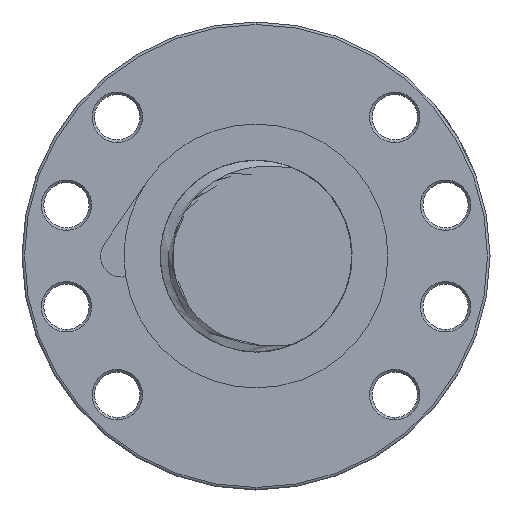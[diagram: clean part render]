
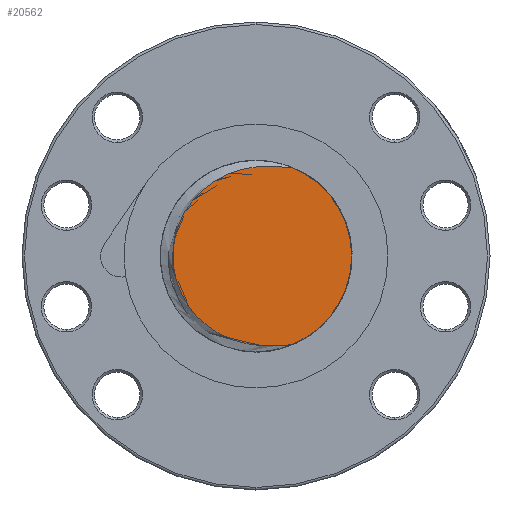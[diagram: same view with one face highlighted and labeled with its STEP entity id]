
A CAD part, left-side view. The second image highlights one B-rep face of the part: STEP entity #20562.
In plain terms, the highlighted planar face has unit normal (-1, 0, 0).
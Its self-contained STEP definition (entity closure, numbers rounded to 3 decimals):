
#16024 = DIRECTION ( 'NONE',  ( 0., 1., 0. ) ) ;
#16025 = DIRECTION ( 'NONE',  ( 1., 0., 0. ) ) ;
#16026 = CARTESIAN_POINT ( 'NONE',  ( -130., 0., 0. ) ) ;
#16027 = AXIS2_PLACEMENT_3D ( 'NONE', #16026, #16025, #16024 ) ;
#16028 = CIRCLE ( 'NONE', #16027, 19. ) ;
#16127 = CARTESIAN_POINT ( 'NONE',  ( -130., -7.08, 17.632 ) ) ;
#16504 = CARTESIAN_POINT ( 'NONE',  ( -130., -7.078, -17.633 ) ) ;
#19477 = FACE_OUTER_BOUND ( 'NONE', #20563, .T. ) ;
#19586 = DIRECTION ( 'NONE',  ( 0., 0., -1. ) ) ;
#19587 = DIRECTION ( 'NONE',  ( 1., 0., 0. ) ) ;
#19589 = CARTESIAN_POINT ( 'NONE',  ( -130., 0., 0. ) ) ;
#19590 = AXIS2_PLACEMENT_3D ( 'NONE', #19589, #19587, #19586 ) ;
#19592 = PLANE ( 'NONE',  #19590 ) ;
#20317 = VERTEX_POINT ( 'NONE', #16127 ) ;
#20319 = EDGE_CURVE ( 'NONE', #20317, #20340, #16028, .T. ) ;
#20340 = VERTEX_POINT ( 'NONE', #16504 ) ;
#20543 = ORIENTED_EDGE ( 'NONE', *, *, #20319, .F. ) ;
#20544 = ORIENTED_EDGE ( 'NONE', *, *, #20545, .T. ) ;
#20545 = EDGE_CURVE ( 'NONE', #20317, #20340, #25867, .T. ) ;
#20562 = ADVANCED_FACE ( 'NONE', ( #19477 ), #19592, .F. ) ;
#20563 = EDGE_LOOP ( 'NONE', ( #20543, #20544 ) ) ;
#25799 = CARTESIAN_POINT ( 'NONE',  ( -130., -7.078, -17.633 ) ) ;
#25800 = CARTESIAN_POINT ( 'NONE',  ( -130., -6.726, -17.642 ) ) ;
#25801 = CARTESIAN_POINT ( 'NONE',  ( -130., -6.375, -17.67 ) ) ;
#25802 = CARTESIAN_POINT ( 'NONE',  ( -130., -5.674, -17.726 ) ) ;
#25803 = CARTESIAN_POINT ( 'NONE',  ( -130., -5.323, -17.755 ) ) ;
#25804 = CARTESIAN_POINT ( 'NONE',  ( -130., -4.27, -17.83 ) ) ;
#25805 = CARTESIAN_POINT ( 'NONE',  ( -130., -3.568, -17.865 ) ) ;
#25806 = CARTESIAN_POINT ( 'NONE',  ( -130., -2.161, -17.877 ) ) ;
#25807 = CARTESIAN_POINT ( 'NONE',  ( -130., -1.454, -17.855 ) ) ;
#25808 = CARTESIAN_POINT ( 'NONE',  ( -130., -0.051, -17.746 ) ) ;
#25809 = CARTESIAN_POINT ( 'NONE',  ( -130., 0.644, -17.658 ) ) ;
#25810 = CARTESIAN_POINT ( 'NONE',  ( -130., 2.02, -17.414 ) ) ;
#25811 = CARTESIAN_POINT ( 'NONE',  ( -130., 2.7, -17.257 ) ) ;
#25812 = CARTESIAN_POINT ( 'NONE',  ( -130., 3.71, -16.965 ) ) ;
#25813 = CARTESIAN_POINT ( 'NONE',  ( -130., 4.044, -16.859 ) ) ;
#25814 = CARTESIAN_POINT ( 'NONE',  ( -130., 4.709, -16.626 ) ) ;
#25815 = CARTESIAN_POINT ( 'NONE',  ( -130., 5.04, -16.5 ) ) ;
#25816 = CARTESIAN_POINT ( 'NONE',  ( -130., 6.667, -15.829 ) ) ;
#25817 = CARTESIAN_POINT ( 'NONE',  ( -130., 7.892, -15.157 ) ) ;
#25818 = CARTESIAN_POINT ( 'NONE',  ( -130., 9.61, -13.942 ) ) ;
#25819 = CARTESIAN_POINT ( 'NONE',  ( -130., 10.165, -13.499 ) ) ;
#25820 = CARTESIAN_POINT ( 'NONE',  ( -130., 11.209, -12.558 ) ) ;
#25821 = CARTESIAN_POINT ( 'NONE',  ( -130., 11.7, -12.06 ) ) ;
#25822 = CARTESIAN_POINT ( 'NONE',  ( -130., 12.619, -11.01 ) ) ;
#25823 = CARTESIAN_POINT ( 'NONE',  ( -130., 13.049, -10.458 ) ) ;
#25824 = CARTESIAN_POINT ( 'NONE',  ( -130., 13.845, -9.299 ) ) ;
#25825 = CARTESIAN_POINT ( 'NONE',  ( -130., 14.212, -8.691 ) ) ;
#25826 = CARTESIAN_POINT ( 'NONE',  ( -130., 15.187, -6.83 ) ) ;
#25827 = CARTESIAN_POINT ( 'NONE',  ( -130., 15.683, -5.525 ) ) ;
#25828 = CARTESIAN_POINT ( 'NONE',  ( -130., 16.103, -3.812 ) ) ;
#25829 = CARTESIAN_POINT ( 'NONE',  ( -130., 16.177, -3.466 ) ) ;
#25830 = CARTESIAN_POINT ( 'NONE',  ( -130., 16.303, -2.774 ) ) ;
#25831 = CARTESIAN_POINT ( 'NONE',  ( -130., 16.355, -2.427 ) ) ;
#25832 = CARTESIAN_POINT ( 'NONE',  ( -130., 16.481, -1.386 ) ) ;
#25833 = CARTESIAN_POINT ( 'NONE',  ( -130., 16.524, -0.69 ) ) ;
#25834 = CARTESIAN_POINT ( 'NONE',  ( -130., 16.525, 0.707 ) ) ;
#25835 = CARTESIAN_POINT ( 'NONE',  ( -130., 16.483, 1.409 ) ) ;
#25836 = CARTESIAN_POINT ( 'NONE',  ( -130., 16.31, 2.813 ) ) ;
#25837 = CARTESIAN_POINT ( 'NONE',  ( -130., 16.181, 3.502 ) ) ;
#25838 = CARTESIAN_POINT ( 'NONE',  ( -130., 15.844, 4.857 ) ) ;
#25839 = CARTESIAN_POINT ( 'NONE',  ( -130., 15.635, 5.523 ) ) ;
#25840 = CARTESIAN_POINT ( 'NONE',  ( -130., 15.263, 6.504 ) ) ;
#25841 = CARTESIAN_POINT ( 'NONE',  ( -130., 15.129, 6.828 ) ) ;
#25842 = CARTESIAN_POINT ( 'NONE',  ( -130., 14.84, 7.47 ) ) ;
#25843 = CARTESIAN_POINT ( 'NONE',  ( -130., 14.685, 7.788 ) ) ;
#25844 = CARTESIAN_POINT ( 'NONE',  ( -130., 13.867, 9.349 ) ) ;
#25845 = CARTESIAN_POINT ( 'NONE',  ( -130., 13.074, 10.496 ) ) ;
#25846 = CARTESIAN_POINT ( 'NONE',  ( -130., 11.919, 11.808 ) ) ;
#25847 = CARTESIAN_POINT ( 'NONE',  ( -130., 11.68, 12.064 ) ) ;
#25848 = CARTESIAN_POINT ( 'NONE',  ( -130., 11.184, 12.564 ) ) ;
#25849 = CARTESIAN_POINT ( 'NONE',  ( -130., 10.928, 12.809 ) ) ;
#25850 = CARTESIAN_POINT ( 'NONE',  ( -130., 10.143, 13.515 ) ) ;
#25851 = CARTESIAN_POINT ( 'NONE',  ( -130., 9.597, 13.951 ) ) ;
#25852 = CARTESIAN_POINT ( 'NONE',  ( -130., 7.895, 15.158 ) ) ;
#25853 = CARTESIAN_POINT ( 'NONE',  ( -130., 6.673, 15.828 ) ) ;
#25854 = CARTESIAN_POINT ( 'NONE',  ( -130., 4.058, 16.903 ) ) ;
#25855 = CARTESIAN_POINT ( 'NONE',  ( -130., 2.712, 17.289 ) ) ;
#25856 = CARTESIAN_POINT ( 'NONE',  ( -130., 0.642, 17.66 ) ) ;
#25857 = CARTESIAN_POINT ( 'NONE',  ( -130., -0.059, 17.749 ) ) ;
#25858 = CARTESIAN_POINT ( 'NONE',  ( -130., -1.464, 17.858 ) ) ;
#25859 = CARTESIAN_POINT ( 'NONE',  ( -130., -2.167, 17.879 ) ) ;
#25860 = CARTESIAN_POINT ( 'NONE',  ( -130., -3.571, 17.864 ) ) ;
#25861 = CARTESIAN_POINT ( 'NONE',  ( -130., -4.273, 17.828 ) ) ;
#25862 = CARTESIAN_POINT ( 'NONE',  ( -130., -5.325, 17.752 ) ) ;
#25863 = CARTESIAN_POINT ( 'NONE',  ( -130., -5.676, 17.723 ) ) ;
#25864 = CARTESIAN_POINT ( 'NONE',  ( -130., -6.377, 17.668 ) ) ;
#25865 = CARTESIAN_POINT ( 'NONE',  ( -130., -6.728, 17.641 ) ) ;
#25866 = CARTESIAN_POINT ( 'NONE',  ( -130., -7.08, 17.632 ) ) ;
#25867 = B_SPLINE_CURVE_WITH_KNOTS ( 'NONE', 3,
 ( #25866, #25865, #25864, #25863, #25862, #25861, #25860, #25859, #25858, #25857, #25856, #25855, #25854, #25853, #25852, #25851, #25850, #25849, #25848, #25847, #25846, #25845, #25844, #25843, #25842, #25841, #25840, #25839, #25838, #25837, #25836, #25835, #25834, #25833, #25832, #25831, #25830, #25829, #25828, #25827, #25826, #25825, #25824, #25823, #25822, #25821, #25820, #25819, #25818, #25817, #25816, #25815, #25814, #25813, #25812, #25811, #25810, #25809, #25808, #25807, #25806, #25805, #25804, #25803, #25802, #25801, #25800, #25799 ),
 .UNSPECIFIED., .F., .F.,
 ( 4, 2, 2, 2, 2, 2, 2, 2, 2, 2, 2, 2, 2, 2, 2, 2, 2, 2, 2, 2, 2, 2, 2, 2, 2, 2, 2, 2, 2, 2, 2, 2, 2, 4 ),
 ( 0.003, 0.004, 0.005, 0.007, 0.009, 0.011, 0.016, 0.02, 0.022, 0.023, 0.024, 0.028, 0.029, 0.03, 0.032, 0.035, 0.037, 0.039, 0.04, 0.041, 0.045, 0.047, 0.049, 0.051, 0.053, 0.058, 0.059, 0.06, 0.062, 0.064, 0.066, 0.068, 0.069, 0.07 ),
 .UNSPECIFIED. ) ;
